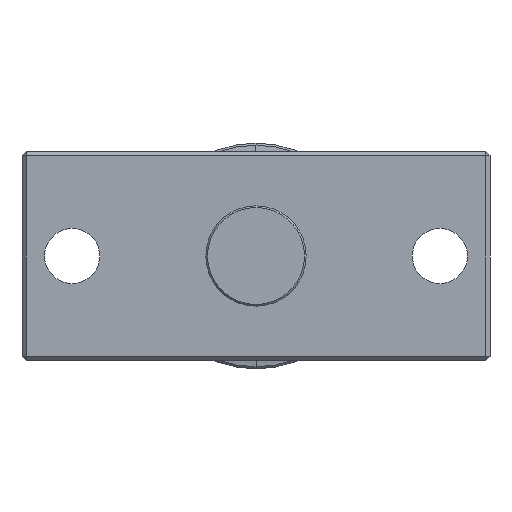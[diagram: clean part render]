
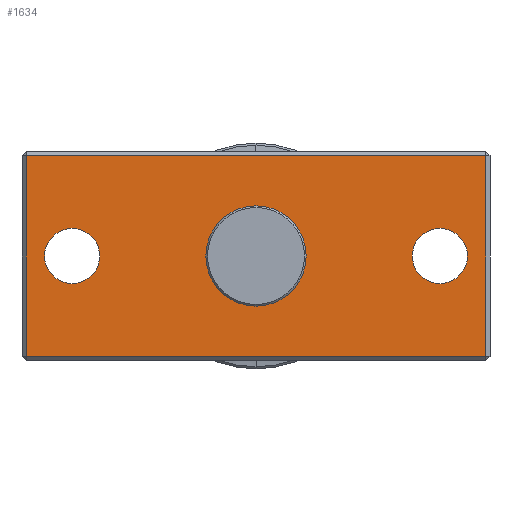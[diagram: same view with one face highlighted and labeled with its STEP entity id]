
A CAD part, left-side view. The second image highlights one B-rep face of the part: STEP entity #1634.
In plain terms, the highlighted planar face has unit normal (-1, 0, 0).
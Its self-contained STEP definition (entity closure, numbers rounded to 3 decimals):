
#76 = CARTESIAN_POINT ( 'NONE',  ( -4.5, 0., -6. ) ) ;
#87 = CARTESIAN_POINT ( 'NONE',  ( -4.5, -22., -3.3 ) ) ;
#95 = LINE ( 'NONE', #1457, #2298 ) ;
#114 = AXIS2_PLACEMENT_3D ( 'NONE', #1165, #767, #374 ) ;
#233 = CARTESIAN_POINT ( 'NONE',  ( -4.5, 22., 0. ) ) ;
#253 = AXIS2_PLACEMENT_3D ( 'NONE', #1539, #364, #878 ) ;
#259 = LINE ( 'NONE', #2229, #483 ) ;
#277 = FACE_OUTER_BOUND ( 'NONE', #989, .T. ) ;
#292 = ORIENTED_EDGE ( 'NONE', *, *, #769, .T. ) ;
#300 = CARTESIAN_POINT ( 'NONE',  ( -4.5, 22., -3.3 ) ) ;
#317 = DIRECTION ( 'NONE',  ( 0., 0., -1. ) ) ;
#347 = CARTESIAN_POINT ( 'NONE',  ( -4.5, 0., 0. ) ) ;
#364 = DIRECTION ( 'NONE',  ( 1., 0., 0. ) ) ;
#373 = CIRCLE ( 'NONE', #2377, 3.3 ) ;
#374 = DIRECTION ( 'NONE',  ( 0., 0., -1. ) ) ;
#392 = CARTESIAN_POINT ( 'NONE',  ( -4.5, 0., 12. ) ) ;
#401 = VERTEX_POINT ( 'NONE', #1993 ) ;
#403 = EDGE_LOOP ( 'NONE', ( #1306, #2403 ) ) ;
#458 = DIRECTION ( 'NONE',  ( 0., 0., -1. ) ) ;
#481 = EDGE_CURVE ( 'NONE', #1760, #1741, #373, .T. ) ;
#483 = VECTOR ( 'NONE', #1180, 1000. ) ;
#516 = LINE ( 'NONE', #392, #975 ) ;
#550 = DIRECTION ( 'NONE',  ( 1., 0., 0. ) ) ;
#593 = DIRECTION ( 'NONE',  ( 0., 1., 0. ) ) ;
#664 = DIRECTION ( 'NONE',  ( 1., 0., 0. ) ) ;
#688 = ORIENTED_EDGE ( 'NONE', *, *, #703, .T. ) ;
#690 = VERTEX_POINT ( 'NONE', #1276 ) ;
#701 = DIRECTION ( 'NONE',  ( 0., 0., -1. ) ) ;
#703 = EDGE_CURVE ( 'NONE', #747, #1923, #1472, .T. ) ;
#725 = ORIENTED_EDGE ( 'NONE', *, *, #1831, .T. ) ;
#747 = VERTEX_POINT ( 'NONE', #925 ) ;
#767 = DIRECTION ( 'NONE',  ( 1., 0., 0. ) ) ;
#769 = EDGE_CURVE ( 'NONE', #1582, #690, #1677, .T. ) ;
#778 = CIRCLE ( 'NONE', #1511, 3.3 ) ;
#801 = VERTEX_POINT ( 'NONE', #849 ) ;
#849 = CARTESIAN_POINT ( 'NONE',  ( -4.5, -27.5, -12. ) ) ;
#851 = AXIS2_PLACEMENT_3D ( 'NONE', #347, #1439, #701 ) ;
#878 = DIRECTION ( 'NONE',  ( 0., 0., -1. ) ) ;
#884 = ORIENTED_EDGE ( 'NONE', *, *, #1051, .T. ) ;
#925 = CARTESIAN_POINT ( 'NONE',  ( -4.5, 0., 6. ) ) ;
#944 = FACE_BOUND ( 'NONE', #1927, .T. ) ;
#970 = LINE ( 'NONE', #2275, #1416 ) ;
#975 = VECTOR ( 'NONE', #593, 1000. ) ;
#976 = FACE_BOUND ( 'NONE', #1548, .T. ) ;
#989 = EDGE_LOOP ( 'NONE', ( #1852, #2358, #1611, #725 ) ) ;
#1038 = EDGE_CURVE ( 'NONE', #690, #1582, #2343, .T. ) ;
#1051 = EDGE_CURVE ( 'NONE', #1923, #747, #2158, .T. ) ;
#1165 = CARTESIAN_POINT ( 'NONE',  ( -4.5, -22., 0. ) ) ;
#1180 = DIRECTION ( 'NONE',  ( 0., -1., 0. ) ) ;
#1201 = EDGE_CURVE ( 'NONE', #801, #1346, #95, .T. ) ;
#1265 = VERTEX_POINT ( 'NONE', #1772 ) ;
#1276 = CARTESIAN_POINT ( 'NONE',  ( -4.5, -22., 3.3 ) ) ;
#1302 = CARTESIAN_POINT ( 'NONE',  ( -4.5, 0., 0. ) ) ;
#1306 = ORIENTED_EDGE ( 'NONE', *, *, #1422, .T. ) ;
#1337 = DIRECTION ( 'NONE',  ( 1., 0., 0. ) ) ;
#1346 = VERTEX_POINT ( 'NONE', #2340 ) ;
#1374 = PLANE ( 'NONE',  #2199 ) ;
#1391 = EDGE_CURVE ( 'NONE', #1265, #801, #259, .T. ) ;
#1416 = VECTOR ( 'NONE', #2309, 1000. ) ;
#1422 = EDGE_CURVE ( 'NONE', #1741, #1760, #778, .T. ) ;
#1439 = DIRECTION ( 'NONE',  ( 1., 0., 0. ) ) ;
#1457 = CARTESIAN_POINT ( 'NONE',  ( -4.5, -27.5, 0. ) ) ;
#1460 = AXIS2_PLACEMENT_3D ( 'NONE', #2312, #664, #458 ) ;
#1472 = CIRCLE ( 'NONE', #253, 6. ) ;
#1511 = AXIS2_PLACEMENT_3D ( 'NONE', #2359, #2163, #1613 ) ;
#1539 = CARTESIAN_POINT ( 'NONE',  ( -4.5, 0., 0. ) ) ;
#1544 = DIRECTION ( 'NONE',  ( 0., 0., 1. ) ) ;
#1548 = EDGE_LOOP ( 'NONE', ( #884, #688 ) ) ;
#1564 = EDGE_CURVE ( 'NONE', #1346, #401, #516, .T. ) ;
#1582 = VERTEX_POINT ( 'NONE', #87 ) ;
#1611 = ORIENTED_EDGE ( 'NONE', *, *, #1564, .T. ) ;
#1613 = DIRECTION ( 'NONE',  ( 0., 0., -1. ) ) ;
#1634 = ADVANCED_FACE ( 'NONE', ( #277, #976, #944, #1687 ), #1374, .F. ) ;
#1677 = CIRCLE ( 'NONE', #114, 3.3 ) ;
#1687 = FACE_BOUND ( 'NONE', #403, .T. ) ;
#1741 = VERTEX_POINT ( 'NONE', #300 ) ;
#1760 = VERTEX_POINT ( 'NONE', #1901 ) ;
#1772 = CARTESIAN_POINT ( 'NONE',  ( -4.5, 27.5, -12. ) ) ;
#1831 = EDGE_CURVE ( 'NONE', #401, #1265, #970, .T. ) ;
#1852 = ORIENTED_EDGE ( 'NONE', *, *, #1391, .T. ) ;
#1901 = CARTESIAN_POINT ( 'NONE',  ( -4.5, 22., 3.3 ) ) ;
#1923 = VERTEX_POINT ( 'NONE', #76 ) ;
#1927 = EDGE_LOOP ( 'NONE', ( #292, #2136 ) ) ;
#1993 = CARTESIAN_POINT ( 'NONE',  ( -4.5, 27.5, 12. ) ) ;
#2074 = DIRECTION ( 'NONE',  ( 0., 0., -1. ) ) ;
#2136 = ORIENTED_EDGE ( 'NONE', *, *, #1038, .T. ) ;
#2158 = CIRCLE ( 'NONE', #851, 6. ) ;
#2163 = DIRECTION ( 'NONE',  ( 1., 0., 0. ) ) ;
#2199 = AXIS2_PLACEMENT_3D ( 'NONE', #1302, #550, #317 ) ;
#2229 = CARTESIAN_POINT ( 'NONE',  ( -4.5, 0., -12. ) ) ;
#2275 = CARTESIAN_POINT ( 'NONE',  ( -4.5, 27.5, 0. ) ) ;
#2298 = VECTOR ( 'NONE', #1544, 1000. ) ;
#2309 = DIRECTION ( 'NONE',  ( 0., 0., -1. ) ) ;
#2312 = CARTESIAN_POINT ( 'NONE',  ( -4.5, -22., 0. ) ) ;
#2340 = CARTESIAN_POINT ( 'NONE',  ( -4.5, -27.5, 12. ) ) ;
#2343 = CIRCLE ( 'NONE', #1460, 3.3 ) ;
#2358 = ORIENTED_EDGE ( 'NONE', *, *, #1201, .T. ) ;
#2359 = CARTESIAN_POINT ( 'NONE',  ( -4.5, 22., 0. ) ) ;
#2377 = AXIS2_PLACEMENT_3D ( 'NONE', #233, #1337, #2074 ) ;
#2403 = ORIENTED_EDGE ( 'NONE', *, *, #481, .T. ) ;
